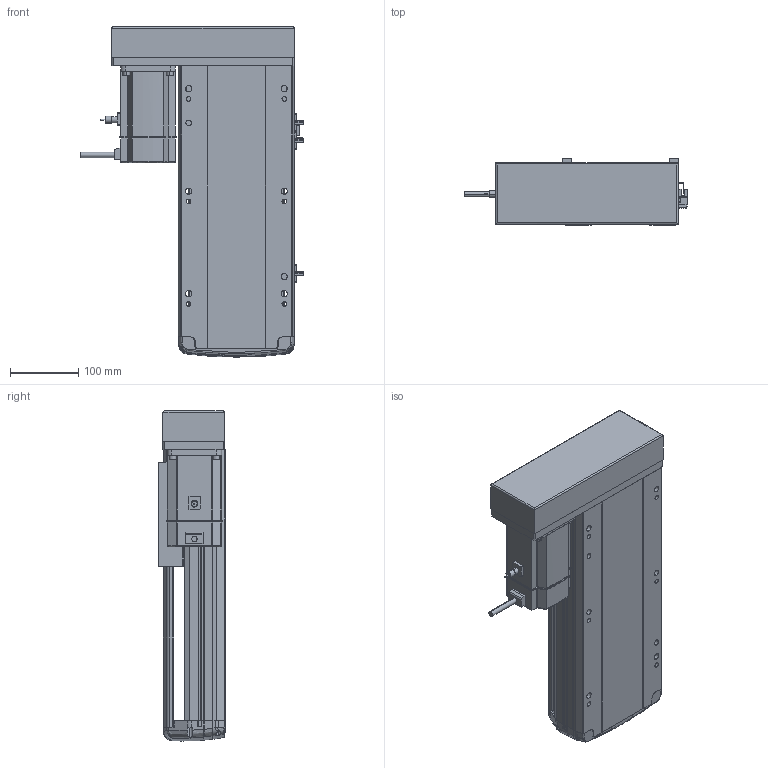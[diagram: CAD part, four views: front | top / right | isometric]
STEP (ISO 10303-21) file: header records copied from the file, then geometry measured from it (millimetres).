
FILE_DESCRIPTION (( 'STEP AP214' ), '1' );
FILE_NAME ('RTH17-XX-200-R-M75-C4.STEP', '2025-10-24T10:04:32', ( '' ), ( '' ), 'SwSTEP 2.0', 'SolidWorks 2018', '' );
FILE_SCHEMA (( 'AUTOMOTIVE_DESIGN' ));
Length unit declared in the file: millimetre
Products named in the file (10): N_RTH17-E-004丝杆螺母连接座^RTH17-XX-XX-R-M75-C4（方程式）; N_RTH17-GY-001P^RTH17-XX-XX-R-M75-C4（方程式）; N_M75^RTH17-XX-XX-R-M75-C4（方程式）; N_RTH17-M-011底座^RTH17-XX-XX-R-M75-C4（方程式）; N_RTH-L-012 感应片(外置)^RTH17-XX-XX-R-M75-C4（方程式）; N_RTH17-L-008-P75电机安装板左转折^RTH17-XX-XX-R-M75-C4（方程式）; N_OMRON EE-SX672 換覜ん^RTH17-XX-XX-R-M75-C4ㄗ源最宒ㄘ; N_RTH17-M-007上盖^RTH17-XX-XX-R-M75-C4（方程式）; N_RTH17-L-018盖子^RTH17-XX-XX-R-M75-C4（方程式）; RTH17-XX-200-R-M75-C4
Assembly tree (11 placements, depth 2):
  RTH17-XX-200-R-M75-C4
    N_RTH17-M-011底座^RTH17-XX-XX-R-M75-C4（方程式）
    N_RTH17-M-007上盖^RTH17-XX-XX-R-M75-C4（方程式）
    N_M75^RTH17-XX-XX-R-M75-C4（方程式）
    N_OMRON EE-SX672 換覜ん^RTH17-XX-XX-R-M75-C4ㄗ源最宒ㄘ  x3
    N_RTH-L-012 感应片(外置)^RTH17-XX-XX-R-M75-C4（方程式）
    N_RTH17-L-008-P75电机安装板左转折^RTH17-XX-XX-R-M75-C4（方程式）
    N_RTH17-L-018盖子^RTH17-XX-XX-R-M75-C4（方程式）
    N_RTH17-E-004丝杆螺母连接座^RTH17-XX-XX-R-M75-C4（方程式）
    N_RTH17-GY-001P^RTH17-XX-XX-R-M75-C4（方程式）
Bounding box: 326.2 x 97 x 483.07 mm (x, y, z)
Volume: 5716281.5 mm3; surface area: 719885.4 mm2
Topology: 13 solids, 15 shells, 1709 faces, 4673 edges, 3022 vertices
Faces by surface type: plane 827, cylinder 468, bspline 377, cone 28, torus 9
Entity records: 49097 total; most frequent: CARTESIAN_POINT 19733, ORIENTED_EDGE 6370, DIRECTION 5293, EDGE_CURVE 3189, VERTEX_POINT 2058, AXIS2_PLACEMENT_3D 1765, LINE 1763, VECTOR 1763
